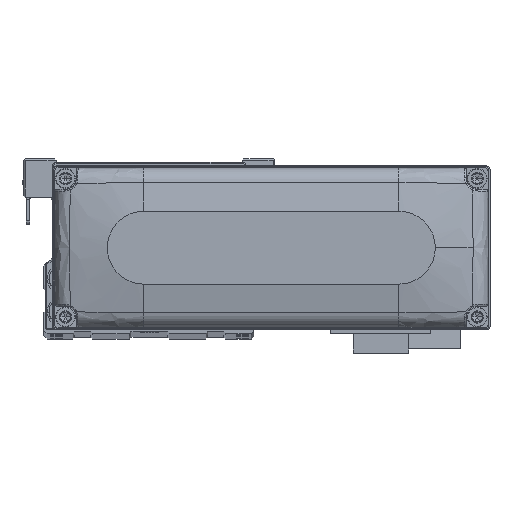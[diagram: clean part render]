
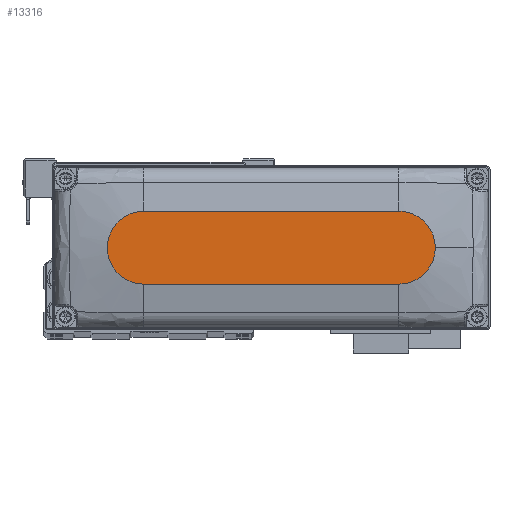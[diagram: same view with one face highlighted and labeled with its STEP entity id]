
A CAD part, top view. The second image highlights one B-rep face of the part: STEP entity #13316.
In plain terms, the highlighted planar face has unit normal (0, 0, 1).
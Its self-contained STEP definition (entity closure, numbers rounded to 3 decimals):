
#1016 = DIRECTION ( 'NONE',  ( 0., 0., 1. ) ) ;
#1173 = CARTESIAN_POINT ( 'NONE',  ( -35., 10., 28. ) ) ;
#1497 = VERTEX_POINT ( 'NONE', #27497 ) ;
#2818 = AXIS2_PLACEMENT_3D ( 'NONE', #28913, #1016, #13446 ) ;
#3555 = CARTESIAN_POINT ( 'NONE',  ( -35., -10., 28. ) ) ;
#3672 = AXIS2_PLACEMENT_3D ( 'NONE', #7276, #19709, #32130 ) ;
#4064 = FACE_OUTER_BOUND ( 'NONE', #20356, .T. ) ;
#4221 = CARTESIAN_POINT ( 'NONE',  ( 35., 0., 28. ) ) ;
#6108 = VECTOR ( 'NONE', #13606, 1000. ) ;
#7276 = CARTESIAN_POINT ( 'NONE',  ( -35., 0., 28. ) ) ;
#9757 = ORIENTED_EDGE ( 'NONE', *, *, #32743, .T. ) ;
#9962 = VERTEX_POINT ( 'NONE', #35972 ) ;
#9977 = CARTESIAN_POINT ( 'NONE',  ( 35., 0., 28. ) ) ;
#10641 = ORIENTED_EDGE ( 'NONE', *, *, #15322, .T. ) ;
#10746 = CARTESIAN_POINT ( 'NONE',  ( 35., 10., 28. ) ) ;
#11425 = AXIS2_PLACEMENT_3D ( 'NONE', #4221, #16657, #29073 ) ;
#11795 = CIRCLE ( 'NONE', #34546, 10. ) ;
#11965 = CARTESIAN_POINT ( 'NONE',  ( -35., -10., 28. ) ) ;
#13316 = ADVANCED_FACE ( 'NONE', ( #4064 ), #16506, .T. ) ;
#13446 = DIRECTION ( 'NONE',  ( 1., 0., 0. ) ) ;
#13606 = DIRECTION ( 'NONE',  ( -1., 0., 0. ) ) ;
#13823 = EDGE_CURVE ( 'NONE', #35575, #1497, #29068, .T. ) ;
#15322 = EDGE_CURVE ( 'NONE', #29254, #9962, #39870, .T. ) ;
#16506 = PLANE ( 'NONE',  #2818 ) ;
#16657 = DIRECTION ( 'NONE',  ( 0., 0., 1. ) ) ;
#18328 = ORIENTED_EDGE ( 'NONE', *, *, #35540, .T. ) ;
#19709 = DIRECTION ( 'NONE',  ( 0., 0., 1. ) ) ;
#20345 = VERTEX_POINT ( 'NONE', #25895 ) ;
#20356 = EDGE_LOOP ( 'NONE', ( #35457, #37134, #10641, #18328, #9757 ) ) ;
#21235 = CIRCLE ( 'NONE', #3672, 10. ) ;
#22409 = DIRECTION ( 'NONE',  ( 0., 0., 1. ) ) ;
#23250 = VECTOR ( 'NONE', #24383, 1000. ) ;
#24383 = DIRECTION ( 'NONE',  ( 1., 0., 0. ) ) ;
#25895 = CARTESIAN_POINT ( 'NONE',  ( 45., 0., 28. ) ) ;
#27497 = CARTESIAN_POINT ( 'NONE',  ( -35., 10., 28. ) ) ;
#28913 = CARTESIAN_POINT ( 'NONE',  ( 0., 0., 28. ) ) ;
#28967 = CIRCLE ( 'NONE', #11425, 10. ) ;
#29068 = LINE ( 'NONE', #1173, #6108 ) ;
#29073 = DIRECTION ( 'NONE',  ( 1., 0., 0. ) ) ;
#29254 = VERTEX_POINT ( 'NONE', #3555 ) ;
#32130 = DIRECTION ( 'NONE',  ( 1., 0., 0. ) ) ;
#32743 = EDGE_CURVE ( 'NONE', #20345, #35575, #11795, .T. ) ;
#34546 = AXIS2_PLACEMENT_3D ( 'NONE', #9977, #22409, #34801 ) ;
#34801 = DIRECTION ( 'NONE',  ( 1., 0., 0. ) ) ;
#35457 = ORIENTED_EDGE ( 'NONE', *, *, #13823, .T. ) ;
#35540 = EDGE_CURVE ( 'NONE', #9962, #20345, #28967, .T. ) ;
#35575 = VERTEX_POINT ( 'NONE', #10746 ) ;
#35972 = CARTESIAN_POINT ( 'NONE',  ( 35., -10., 28. ) ) ;
#37134 = ORIENTED_EDGE ( 'NONE', *, *, #38001, .T. ) ;
#38001 = EDGE_CURVE ( 'NONE', #1497, #29254, #21235, .T. ) ;
#39870 = LINE ( 'NONE', #11965, #23250 ) ;
